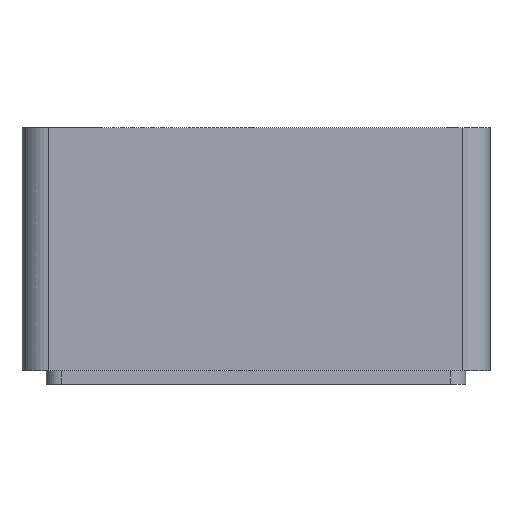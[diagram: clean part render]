
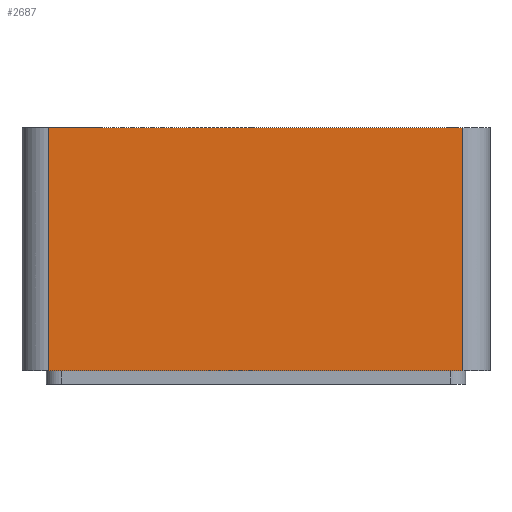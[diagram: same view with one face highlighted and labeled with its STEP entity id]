
A CAD part, front view. The second image highlights one B-rep face of the part: STEP entity #2687.
In plain terms, the highlighted planar face has unit normal (0, -1, 0).
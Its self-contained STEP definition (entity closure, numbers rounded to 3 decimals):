
#44 = PLANE('',#45);
#45 = AXIS2_PLACEMENT_3D('',#46,#47,#48);
#46 = CARTESIAN_POINT('',(102.,1.,60.));
#47 = DIRECTION('',(0.,0.,1.));
#48 = DIRECTION('',(1.,0.,-0.));
#98 = PLANE('',#99);
#99 = AXIS2_PLACEMENT_3D('',#100,#101,#102);
#100 = CARTESIAN_POINT('',(102.,1.,114.));
#101 = DIRECTION('',(0.,0.,1.));
#102 = DIRECTION('',(1.,0.,-0.));
#124 = CYLINDRICAL_SURFACE('',#125,6.);
#125 = AXIS2_PLACEMENT_3D('',#126,#127,#128);
#126 = CARTESIAN_POINT('',(108.,7.,60.));
#127 = DIRECTION('',(0.,0.,1.));
#128 = DIRECTION('',(-1.,-0.,0.));
#141 = VERTEX_POINT('',#142);
#142 = CARTESIAN_POINT('',(108.,1.,60.));
#164 = EDGE_CURVE('',#141,#165,#167,.T.);
#165 = VERTEX_POINT('',#166);
#166 = CARTESIAN_POINT('',(200.,1.,60.));
#167 = SURFACE_CURVE('',#168,(#172,#179),.PCURVE_S1.);
#168 = LINE('',#169,#170);
#169 = CARTESIAN_POINT('',(102.,1.,60.));
#170 = VECTOR('',#171,1.);
#171 = DIRECTION('',(1.,0.,-0.));
#172 = PCURVE('',#44,#173);
#173 = DEFINITIONAL_REPRESENTATION('',(#174),#178);
#174 = LINE('',#175,#176);
#175 = CARTESIAN_POINT('',(0.,0.));
#176 = VECTOR('',#177,1.);
#177 = DIRECTION('',(1.,0.));
#178 = ( GEOMETRIC_REPRESENTATION_CONTEXT(2)
PARAMETRIC_REPRESENTATION_CONTEXT() REPRESENTATION_CONTEXT('2D SPACE',''
  ) );
#179 = PCURVE('',#180,#185);
#180 = PLANE('',#181);
#181 = AXIS2_PLACEMENT_3D('',#182,#183,#184);
#182 = CARTESIAN_POINT('',(102.,1.,60.));
#183 = DIRECTION('',(-0.,1.,0.));
#184 = DIRECTION('',(0.,0.,1.));
#185 = DEFINITIONAL_REPRESENTATION('',(#186),#190);
#186 = LINE('',#187,#188);
#187 = CARTESIAN_POINT('',(0.,0.));
#188 = VECTOR('',#189,1.);
#189 = DIRECTION('',(0.,1.));
#190 = ( GEOMETRIC_REPRESENTATION_CONTEXT(2)
PARAMETRIC_REPRESENTATION_CONTEXT() REPRESENTATION_CONTEXT('2D SPACE',''
  ) );
#213 = CYLINDRICAL_SURFACE('',#214,6.);
#214 = AXIS2_PLACEMENT_3D('',#215,#216,#217);
#215 = CARTESIAN_POINT('',(200.,7.,63.));
#216 = DIRECTION('',(0.,0.,1.));
#217 = DIRECTION('',(1.,0.,-0.));
#614 = EDGE_CURVE('',#141,#615,#617,.T.);
#615 = VERTEX_POINT('',#616);
#616 = CARTESIAN_POINT('',(108.,1.,114.));
#617 = SURFACE_CURVE('',#618,(#622,#629),.PCURVE_S1.);
#618 = LINE('',#619,#620);
#619 = CARTESIAN_POINT('',(108.,1.,60.));
#620 = VECTOR('',#621,1.);
#621 = DIRECTION('',(0.,0.,1.));
#622 = PCURVE('',#124,#623);
#623 = DEFINITIONAL_REPRESENTATION('',(#624),#628);
#624 = LINE('',#625,#626);
#625 = CARTESIAN_POINT('',(1.571,0.));
#626 = VECTOR('',#627,1.);
#627 = DIRECTION('',(0.,1.));
#628 = ( GEOMETRIC_REPRESENTATION_CONTEXT(2)
PARAMETRIC_REPRESENTATION_CONTEXT() REPRESENTATION_CONTEXT('2D SPACE',''
  ) );
#629 = PCURVE('',#180,#630);
#630 = DEFINITIONAL_REPRESENTATION('',(#631),#635);
#631 = LINE('',#632,#633);
#632 = CARTESIAN_POINT('',(0.,6.));
#633 = VECTOR('',#634,1.);
#634 = DIRECTION('',(1.,0.));
#635 = ( GEOMETRIC_REPRESENTATION_CONTEXT(2)
PARAMETRIC_REPRESENTATION_CONTEXT() REPRESENTATION_CONTEXT('2D SPACE',''
  ) );
#664 = EDGE_CURVE('',#615,#665,#667,.T.);
#665 = VERTEX_POINT('',#666);
#666 = CARTESIAN_POINT('',(200.,1.,114.));
#667 = SURFACE_CURVE('',#668,(#672,#679),.PCURVE_S1.);
#668 = LINE('',#669,#670);
#669 = CARTESIAN_POINT('',(102.,1.,114.));
#670 = VECTOR('',#671,1.);
#671 = DIRECTION('',(1.,0.,-0.));
#672 = PCURVE('',#98,#673);
#673 = DEFINITIONAL_REPRESENTATION('',(#674),#678);
#674 = LINE('',#675,#676);
#675 = CARTESIAN_POINT('',(0.,0.));
#676 = VECTOR('',#677,1.);
#677 = DIRECTION('',(1.,0.));
#678 = ( GEOMETRIC_REPRESENTATION_CONTEXT(2)
PARAMETRIC_REPRESENTATION_CONTEXT() REPRESENTATION_CONTEXT('2D SPACE',''
  ) );
#679 = PCURVE('',#180,#680);
#680 = DEFINITIONAL_REPRESENTATION('',(#681),#685);
#681 = LINE('',#682,#683);
#682 = CARTESIAN_POINT('',(54.,0.));
#683 = VECTOR('',#684,1.);
#684 = DIRECTION('',(0.,1.));
#685 = ( GEOMETRIC_REPRESENTATION_CONTEXT(2)
PARAMETRIC_REPRESENTATION_CONTEXT() REPRESENTATION_CONTEXT('2D SPACE',''
  ) );
#2666 = EDGE_CURVE('',#165,#665,#2667,.T.);
#2667 = SURFACE_CURVE('',#2668,(#2672,#2679),.PCURVE_S1.);
#2668 = LINE('',#2669,#2670);
#2669 = CARTESIAN_POINT('',(200.,1.,60.));
#2670 = VECTOR('',#2671,1.);
#2671 = DIRECTION('',(0.,0.,1.));
#2672 = PCURVE('',#213,#2673);
#2673 = DEFINITIONAL_REPRESENTATION('',(#2674),#2678);
#2674 = LINE('',#2675,#2676);
#2675 = CARTESIAN_POINT('',(-1.571,-3.));
#2676 = VECTOR('',#2677,1.);
#2677 = DIRECTION('',(-0.,1.));
#2678 = ( GEOMETRIC_REPRESENTATION_CONTEXT(2)
PARAMETRIC_REPRESENTATION_CONTEXT() REPRESENTATION_CONTEXT('2D SPACE',''
  ) );
#2679 = PCURVE('',#180,#2680);
#2680 = DEFINITIONAL_REPRESENTATION('',(#2681),#2685);
#2681 = LINE('',#2682,#2683);
#2682 = CARTESIAN_POINT('',(0.,98.));
#2683 = VECTOR('',#2684,1.);
#2684 = DIRECTION('',(1.,0.));
#2685 = ( GEOMETRIC_REPRESENTATION_CONTEXT(2)
PARAMETRIC_REPRESENTATION_CONTEXT() REPRESENTATION_CONTEXT('2D SPACE',''
  ) );
#2687 = ADVANCED_FACE('',(#2688),#180,.F.);
#2688 = FACE_BOUND('',#2689,.F.);
#2689 = EDGE_LOOP('',(#2690,#2691,#2692,#2693));
#2690 = ORIENTED_EDGE('',*,*,#2666,.F.);
#2691 = ORIENTED_EDGE('',*,*,#164,.F.);
#2692 = ORIENTED_EDGE('',*,*,#614,.T.);
#2693 = ORIENTED_EDGE('',*,*,#664,.T.);
